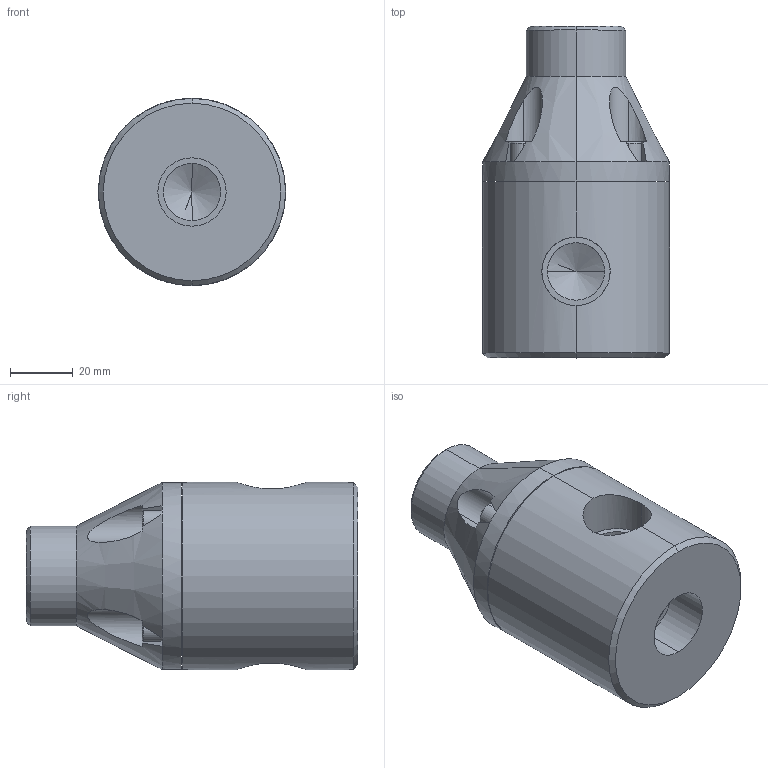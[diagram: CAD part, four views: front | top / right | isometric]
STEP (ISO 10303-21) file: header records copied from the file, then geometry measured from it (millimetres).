
FILE_DESCRIPTION (( 'STEP AP203' ), '1' );
FILE_NAME ('MPR0500MSOC.STEP', '2015-03-19T10:27:41', ( 'Dan Bernard' ), ( '' ), 'SwSTEP 2.0', 'SolidWorks 2008', '' );
FILE_SCHEMA (( 'CONFIG_CONTROL_DESIGN' ));
Length unit declared in the file: inch
Products named in the file (1): MPR0500MSOC
Bounding box: 59.44 x 105.41 x 59.44 mm (x, y, z)
Volume: 208993.5 mm3; surface area: 28943 mm2
Topology: 1 solids, 1 shells, 133 faces, 320 edges, 199 vertices
Faces by surface type: plane 71, cylinder 38, cone 24
Entity records: 4253 total; most frequent: CARTESIAN_POINT 1067, DIRECTION 658, ORIENTED_EDGE 628, EDGE_CURVE 314, AXIS2_PLACEMENT_3D 232, VERTEX_POINT 199, VECTOR 194, LINE 194
